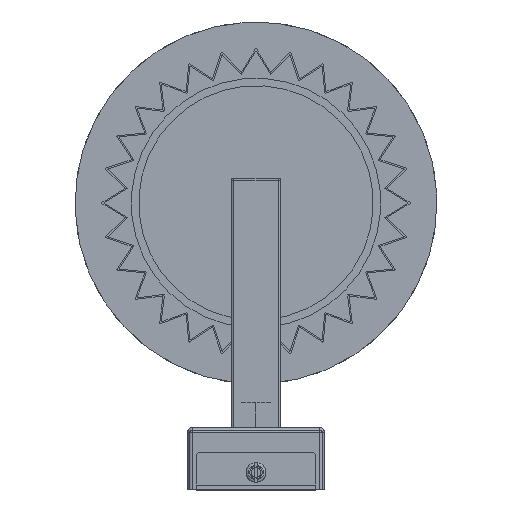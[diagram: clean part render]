
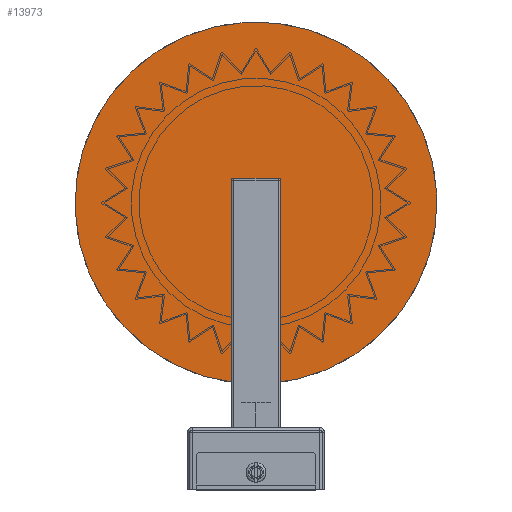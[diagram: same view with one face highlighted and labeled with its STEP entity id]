
A CAD part, front view. The second image highlights one B-rep face of the part: STEP entity #13973.
In plain terms, the highlighted planar face has unit normal (0, -1, 0).
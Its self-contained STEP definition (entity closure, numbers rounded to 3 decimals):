
#864 = DIRECTION ( 'NONE',  ( 0., 0., 1. ) ) ;
#1805 = EDGE_CURVE ( 'NONE', #7415, #2249, #2892, .T. ) ;
#1858 = AXIS2_PLACEMENT_3D ( 'NONE', #8732, #11852, #8680 ) ;
#2249 = VERTEX_POINT ( 'NONE', #4457 ) ;
#2628 = AXIS2_PLACEMENT_3D ( 'NONE', #2655, #5188, #10780 ) ;
#2655 = CARTESIAN_POINT ( 'NONE',  ( 0., -2., 0. ) ) ;
#2892 = CIRCLE ( 'NONE', #2628, 72.5 ) ;
#3196 = CARTESIAN_POINT ( 'NONE',  ( 0., -2., 0. ) ) ;
#4412 = FACE_BOUND ( 'NONE', #7132, .T. ) ;
#4457 = CARTESIAN_POINT ( 'NONE',  ( 0., -2., -72.5 ) ) ;
#4507 = ORIENTED_EDGE ( 'NONE', *, *, #13492, .F. ) ;
#4824 = AXIS2_PLACEMENT_3D ( 'NONE', #13154, #8807, #9831 ) ;
#5188 = DIRECTION ( 'NONE',  ( 0., 1., 0. ) ) ;
#5288 = CIRCLE ( 'NONE', #1858, 72.5 ) ;
#5669 = ORIENTED_EDGE ( 'NONE', *, *, #8218, .T. ) ;
#5682 = CIRCLE ( 'NONE', #6742, 5.25 ) ;
#6397 = ORIENTED_EDGE ( 'NONE', *, *, #14223, .T. ) ;
#6693 = CARTESIAN_POINT ( 'NONE',  ( 0., -2., -5.25 ) ) ;
#6742 = AXIS2_PLACEMENT_3D ( 'NONE', #3196, #8658, #864 ) ;
#7057 = VERTEX_POINT ( 'NONE', #6693 ) ;
#7102 = DIRECTION ( 'NONE',  ( 0., 0., 1. ) ) ;
#7132 = EDGE_LOOP ( 'NONE', ( #5669, #6397 ) ) ;
#7415 = VERTEX_POINT ( 'NONE', #9409 ) ;
#8176 = PLANE ( 'NONE',  #13282 ) ;
#8218 = EDGE_CURVE ( 'NONE', #10257, #7057, #5682, .T. ) ;
#8264 = DIRECTION ( 'NONE',  ( 0., 1., 0. ) ) ;
#8573 = CIRCLE ( 'NONE', #4824, 5.25 ) ;
#8658 = DIRECTION ( 'NONE',  ( 0., 1., 0. ) ) ;
#8680 = DIRECTION ( 'NONE',  ( 0., 0., 1. ) ) ;
#8732 = CARTESIAN_POINT ( 'NONE',  ( 0., -2., 0. ) ) ;
#8807 = DIRECTION ( 'NONE',  ( 0., 1., 0. ) ) ;
#9409 = CARTESIAN_POINT ( 'NONE',  ( 0., -2., 72.5 ) ) ;
#9831 = DIRECTION ( 'NONE',  ( 0., 0., 1. ) ) ;
#10257 = VERTEX_POINT ( 'NONE', #10576 ) ;
#10576 = CARTESIAN_POINT ( 'NONE',  ( 0., -2., 5.25 ) ) ;
#10780 = DIRECTION ( 'NONE',  ( 0., 0., 1. ) ) ;
#11852 = DIRECTION ( 'NONE',  ( 0., 1., 0. ) ) ;
#12919 = FACE_OUTER_BOUND ( 'NONE', #13107, .T. ) ;
#13107 = EDGE_LOOP ( 'NONE', ( #13257, #4507 ) ) ;
#13154 = CARTESIAN_POINT ( 'NONE',  ( 0., -2., 0. ) ) ;
#13257 = ORIENTED_EDGE ( 'NONE', *, *, #1805, .F. ) ;
#13282 = AXIS2_PLACEMENT_3D ( 'NONE', #13733, #8264, #7102 ) ;
#13492 = EDGE_CURVE ( 'NONE', #2249, #7415, #5288, .T. ) ;
#13733 = CARTESIAN_POINT ( 'NONE',  ( 0., -2., 0. ) ) ;
#13973 = ADVANCED_FACE ( 'NONE', ( #4412, #12919 ), #8176, .F. ) ;
#14223 = EDGE_CURVE ( 'NONE', #7057, #10257, #8573, .T. ) ;
